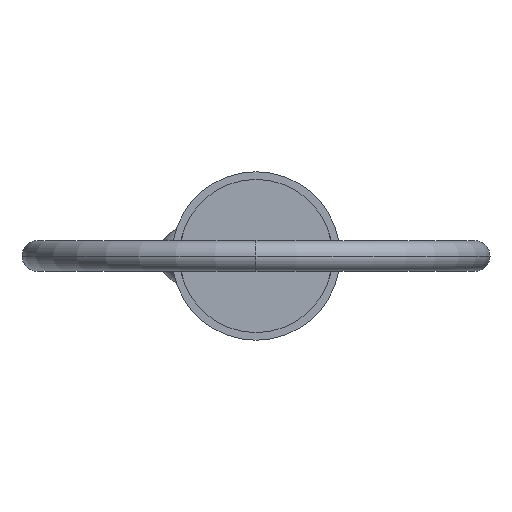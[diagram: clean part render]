
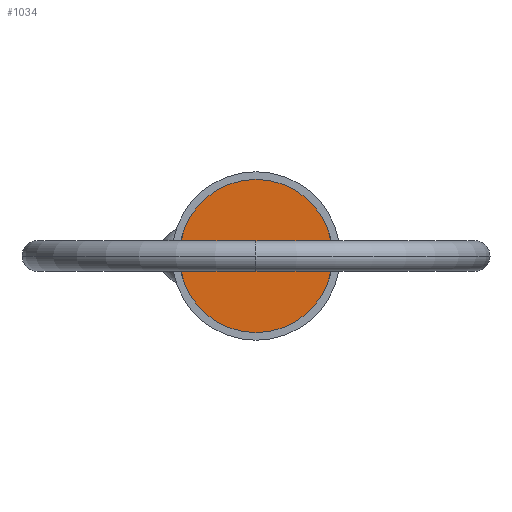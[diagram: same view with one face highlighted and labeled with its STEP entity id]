
A CAD part, left-side view. The second image highlights one B-rep face of the part: STEP entity #1034.
In plain terms, the highlighted planar face has unit normal (-1, 0, 0).
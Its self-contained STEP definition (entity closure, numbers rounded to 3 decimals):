
#22 = CARTESIAN_POINT ( 'NONE',  ( 0., 0., 0. ) ) ;
#31 = AXIS2_PLACEMENT_3D ( 'NONE', #59, #533, #1068 ) ;
#40 = FACE_OUTER_BOUND ( 'NONE', #933, .T. ) ;
#59 = CARTESIAN_POINT ( 'NONE',  ( 0., 0., 0. ) ) ;
#174 = EDGE_CURVE ( 'NONE', #182, #1012, #577, .T. ) ;
#182 = VERTEX_POINT ( 'NONE', #472 ) ;
#229 = DIRECTION ( 'NONE',  ( -1., 0., 0. ) ) ;
#247 = DIRECTION ( 'NONE',  ( 0., 0., -1. ) ) ;
#367 = DIRECTION ( 'NONE',  ( 0., 0., 1. ) ) ;
#472 = CARTESIAN_POINT ( 'NONE',  ( 0., 0., -11.115 ) ) ;
#497 = ORIENTED_EDGE ( 'NONE', *, *, #767, .F. ) ;
#523 = ORIENTED_EDGE ( 'NONE', *, *, #174, .F. ) ;
#533 = DIRECTION ( 'NONE',  ( 1., 0., 0. ) ) ;
#542 = PLANE ( 'NONE',  #866 ) ;
#577 = CIRCLE ( 'NONE', #31, 11.115 ) ;
#651 = DIRECTION ( 'NONE',  ( 1., 0., 0. ) ) ;
#767 = EDGE_CURVE ( 'NONE', #1012, #182, #940, .T. ) ;
#814 = CARTESIAN_POINT ( 'NONE',  ( 0., 0., 0. ) ) ;
#866 = AXIS2_PLACEMENT_3D ( 'NONE', #814, #229, #367 ) ;
#903 = AXIS2_PLACEMENT_3D ( 'NONE', #22, #651, #247 ) ;
#933 = EDGE_LOOP ( 'NONE', ( #523, #497 ) ) ;
#940 = CIRCLE ( 'NONE', #903, 11.115 ) ;
#981 = CARTESIAN_POINT ( 'NONE',  ( 0., 0., 11.115 ) ) ;
#1012 = VERTEX_POINT ( 'NONE', #981 ) ;
#1034 = ADVANCED_FACE ( 'NONE', ( #40 ), #542, .T. ) ;
#1068 = DIRECTION ( 'NONE',  ( 0., 0., -1. ) ) ;
